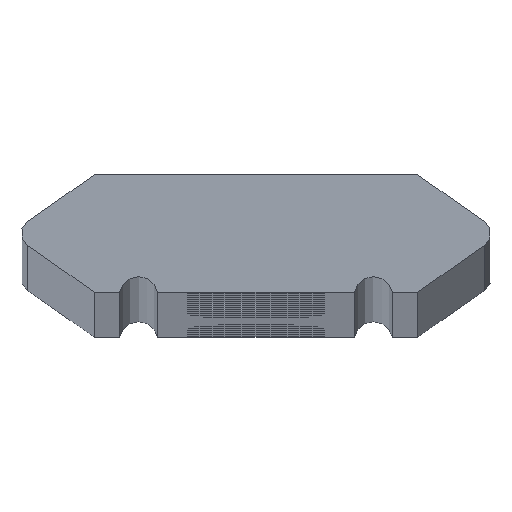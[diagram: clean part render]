
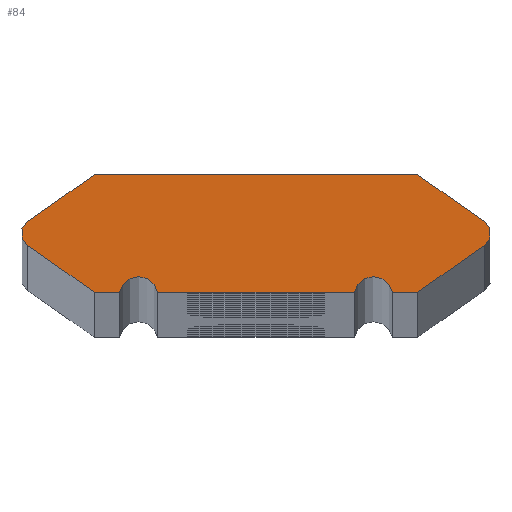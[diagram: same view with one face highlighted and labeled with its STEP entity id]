
A CAD part, top view. The second image highlights one B-rep face of the part: STEP entity #84.
In plain terms, the highlighted planar face has unit normal (0, 0, 1).
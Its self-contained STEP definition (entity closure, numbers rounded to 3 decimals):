
#84=ADVANCED_FACE('',(#155),#156,.F.);
#155=FACE_OUTER_BOUND('',#293,.T.);
#156=PLANE('',#294);
#293=EDGE_LOOP('',(#475,#476,#477,#478,#479,#480,#481,#482,#483,#484,#485,#486));
#294=AXIS2_PLACEMENT_3D('',#487,#488,#489);
#475=ORIENTED_EDGE('',*,*,#707,.F.);
#476=ORIENTED_EDGE('',*,*,#708,.F.);
#477=ORIENTED_EDGE('',*,*,#656,.F.);
#478=ORIENTED_EDGE('',*,*,#709,.F.);
#479=ORIENTED_EDGE('',*,*,#710,.F.);
#480=ORIENTED_EDGE('',*,*,#711,.F.);
#481=ORIENTED_EDGE('',*,*,#672,.F.);
#482=ORIENTED_EDGE('',*,*,#712,.F.);
#483=ORIENTED_EDGE('',*,*,#662,.F.);
#484=ORIENTED_EDGE('',*,*,#713,.F.);
#485=ORIENTED_EDGE('',*,*,#664,.F.);
#486=ORIENTED_EDGE('',*,*,#697,.F.);
#487=CARTESIAN_POINT('',(5.63,0.,0.));
#488=DIRECTION('',(0.,0.,-1.0));
#489=DIRECTION('',(0.574,0.819,0.));
#656=EDGE_CURVE('',#736,#737,#738,.T.);
#662=EDGE_CURVE('',#747,#749,#750,.T.);
#664=EDGE_CURVE('',#752,#753,#754,.T.);
#672=EDGE_CURVE('',#767,#769,#770,.T.);
#697=EDGE_CURVE('',#816,#752,#819,.T.);
#707=EDGE_CURVE('',#833,#816,#834,.T.);
#708=EDGE_CURVE('',#737,#833,#835,.T.);
#709=EDGE_CURVE('',#836,#736,#837,.T.);
#710=EDGE_CURVE('',#838,#836,#839,.T.);
#711=EDGE_CURVE('',#769,#838,#840,.T.);
#712=EDGE_CURVE('',#749,#767,#841,.T.);
#713=EDGE_CURVE('',#753,#747,#842,.T.);
#736=VERTEX_POINT('',#884);
#737=VERTEX_POINT('',#885);
#738=CIRCLE('',#886,0.37);
#747=VERTEX_POINT('',#898);
#749=VERTEX_POINT('',#901);
#750=LINE('',#902,#903);
#752=VERTEX_POINT('',#906);
#753=VERTEX_POINT('',#907);
#754=CIRCLE('',#908,0.37);
#767=VERTEX_POINT('',#924);
#769=VERTEX_POINT('',#927);
#770=LINE('',#928,#929);
#816=VERTEX_POINT('',#976);
#819=LINE('',#980,#981);
#833=VERTEX_POINT('',#1001);
#834=LINE('',#1002,#1003);
#835=LINE('',#1004,#1005);
#836=VERTEX_POINT('',#1006);
#837=LINE('',#1007,#1008);
#838=VERTEX_POINT('',#1009);
#839=LINE('',#1010,#1011);
#840=CIRCLE('',#1012,0.5);
#841=CIRCLE('',#1013,0.5);
#842=LINE('',#1014,#1015);
#884=CARTESIAN_POINT('',(-5.842,-0.303,0.));
#885=CARTESIAN_POINT('',(-5.842,0.303,0.));
#886=AXIS2_PLACEMENT_3D('',#1060,#1061,#1062);
#898=CARTESIAN_POINT('',(4.133,-1.5,0.));
#901=CARTESIAN_POINT('',(3.49,-1.5,0.));
#902=CARTESIAN_POINT('',(5.63,-1.5,0.));
#903=VECTOR('',#1070,1.0);
#906=CARTESIAN_POINT('',(5.842,0.303,0.));
#907=CARTESIAN_POINT('',(5.842,-0.303,0.));
#908=AXIS2_PLACEMENT_3D('',#1072,#1073,#1074);
#924=CARTESIAN_POINT('',(2.51,-1.5,0.));
#927=CARTESIAN_POINT('',(-2.51,-1.5,0.));
#928=CARTESIAN_POINT('',(5.63,-1.5,0.));
#929=VECTOR('',#1088,1.0);
#976=CARTESIAN_POINT('',(4.133,1.5,0.));
#980=CARTESIAN_POINT('',(3.99,1.6,0.));
#981=VECTOR('',#1157,1.0);
#1001=CARTESIAN_POINT('',(-4.133,1.5,0.));
#1002=CARTESIAN_POINT('',(5.63,1.5,0.));
#1003=VECTOR('',#1173,1.0);
#1004=CARTESIAN_POINT('',(-5.842,0.303,0.));
#1005=VECTOR('',#1174,1.0);
#1006=CARTESIAN_POINT('',(-4.133,-1.5,0.));
#1007=CARTESIAN_POINT('',(-3.99,-1.6,0.));
#1008=VECTOR('',#1175,1.0);
#1009=CARTESIAN_POINT('',(-3.49,-1.5,0.));
#1010=CARTESIAN_POINT('',(5.63,-1.5,0.));
#1011=VECTOR('',#1176,1.0);
#1012=AXIS2_PLACEMENT_3D('',#1177,#1178,#1179);
#1013=AXIS2_PLACEMENT_3D('',#1180,#1181,#1182);
#1014=CARTESIAN_POINT('',(5.842,-0.303,0.));
#1015=VECTOR('',#1183,1.0);
#1060=CARTESIAN_POINT('',(-5.63,0.,0.));
#1061=DIRECTION('',(0.,0.0,-1.0));
#1062=DIRECTION('',(0.,-1.0,0.));
#1070=DIRECTION('',(-1.0,0.,0.));
#1072=CARTESIAN_POINT('',(5.63,0.,0.));
#1073=DIRECTION('',(0.,0.0,-1.0));
#1074=DIRECTION('',(0.,-1.0,0.));
#1088=DIRECTION('',(-1.0,0.,0.));
#1157=DIRECTION('',(0.819,-0.574,0.));
#1173=DIRECTION('',(1.0,0.,0.));
#1174=DIRECTION('',(0.819,0.574,0.));
#1175=DIRECTION('',(-0.819,0.574,0.));
#1176=DIRECTION('',(-1.0,0.,0.));
#1177=CARTESIAN_POINT('',(-3.0,-1.6,0.));
#1178=DIRECTION('',(0.,0.0,1.0));
#1179=DIRECTION('',(0.,-1.0,0.));
#1180=CARTESIAN_POINT('',(3.0,-1.6,0.));
#1181=DIRECTION('',(0.,0.0,1.0));
#1182=DIRECTION('',(0.,-1.0,0.));
#1183=DIRECTION('',(-0.819,-0.574,0.));
